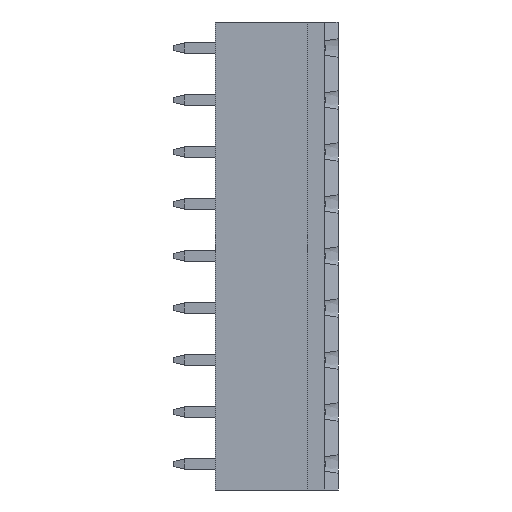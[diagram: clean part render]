
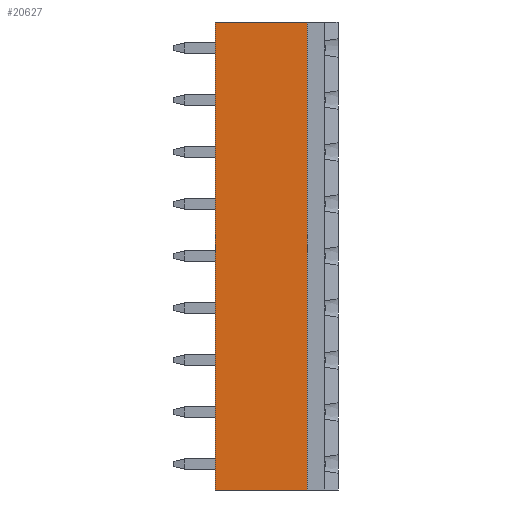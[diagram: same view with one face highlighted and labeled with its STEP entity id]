
A CAD part, left-side view. The second image highlights one B-rep face of the part: STEP entity #20627.
In plain terms, the highlighted planar face has unit normal (-1, 0, 0).
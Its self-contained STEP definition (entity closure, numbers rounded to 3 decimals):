
#162 = DIRECTION ( 'NONE',  ( -1., 0., 0. ) ) ;
#380 = VECTOR ( 'NONE', #7495, 1000. ) ;
#670 = VECTOR ( 'NONE', #20254, 1000. ) ;
#2079 = CARTESIAN_POINT ( 'NONE',  ( -3.9, 12., 45.72 ) ) ;
#3727 = DIRECTION ( 'NONE',  ( 0., 0., 1. ) ) ;
#5002 = CARTESIAN_POINT ( 'NONE',  ( -3.9, 12., 0. ) ) ;
#5979 = VECTOR ( 'NONE', #8779, 1000. ) ;
#6666 = EDGE_CURVE ( 'NONE', #21389, #16109, #11397, .T. ) ;
#7391 = CARTESIAN_POINT ( 'NONE',  ( -3.9, 12., 0. ) ) ;
#7495 = DIRECTION ( 'NONE',  ( 0., -1., 0. ) ) ;
#8333 = CARTESIAN_POINT ( 'NONE',  ( -3.9, 12., 45.72 ) ) ;
#8777 = VECTOR ( 'NONE', #3727, 1000. ) ;
#8779 = DIRECTION ( 'NONE',  ( 0., -1., 0. ) ) ;
#8823 = EDGE_LOOP ( 'NONE', ( #14299, #13571, #18395, #9059 ) ) ;
#9059 = ORIENTED_EDGE ( 'NONE', *, *, #22491, .F. ) ;
#9368 = LINE ( 'NONE', #16167, #8777 ) ;
#11086 = VERTEX_POINT ( 'NONE', #21951 ) ;
#11267 = VERTEX_POINT ( 'NONE', #8333 ) ;
#11397 = LINE ( 'NONE', #13006, #670 ) ;
#11692 = EDGE_CURVE ( 'NONE', #11086, #16109, #13729, .T. ) ;
#13006 = CARTESIAN_POINT ( 'NONE',  ( -3.9, 3., 45.72 ) ) ;
#13182 = AXIS2_PLACEMENT_3D ( 'NONE', #5002, #162, #22743 ) ;
#13571 = ORIENTED_EDGE ( 'NONE', *, *, #6666, .F. ) ;
#13729 = LINE ( 'NONE', #7391, #5979 ) ;
#14299 = ORIENTED_EDGE ( 'NONE', *, *, #11692, .T. ) ;
#14409 = LINE ( 'NONE', #2079, #380 ) ;
#16109 = VERTEX_POINT ( 'NONE', #16493 ) ;
#16167 = CARTESIAN_POINT ( 'NONE',  ( -3.9, 12., 0. ) ) ;
#16456 = EDGE_CURVE ( 'NONE', #11267, #21389, #14409, .T. ) ;
#16493 = CARTESIAN_POINT ( 'NONE',  ( -3.9, 3., 0. ) ) ;
#17670 = FACE_OUTER_BOUND ( 'NONE', #8823, .T. ) ;
#18395 = ORIENTED_EDGE ( 'NONE', *, *, #16456, .F. ) ;
#20254 = DIRECTION ( 'NONE',  ( 0., 0., -1. ) ) ;
#20627 = ADVANCED_FACE ( 'NONE', ( #17670 ), #21133, .T. ) ;
#21133 = PLANE ( 'NONE',  #13182 ) ;
#21389 = VERTEX_POINT ( 'NONE', #21999 ) ;
#21951 = CARTESIAN_POINT ( 'NONE',  ( -3.9, 12., 0. ) ) ;
#21999 = CARTESIAN_POINT ( 'NONE',  ( -3.9, 3., 45.72 ) ) ;
#22491 = EDGE_CURVE ( 'NONE', #11086, #11267, #9368, .T. ) ;
#22743 = DIRECTION ( 'NONE',  ( 0., 0., 1. ) ) ;
